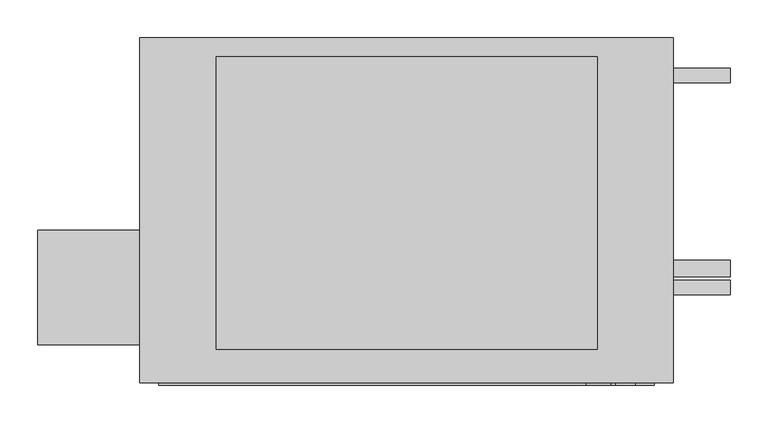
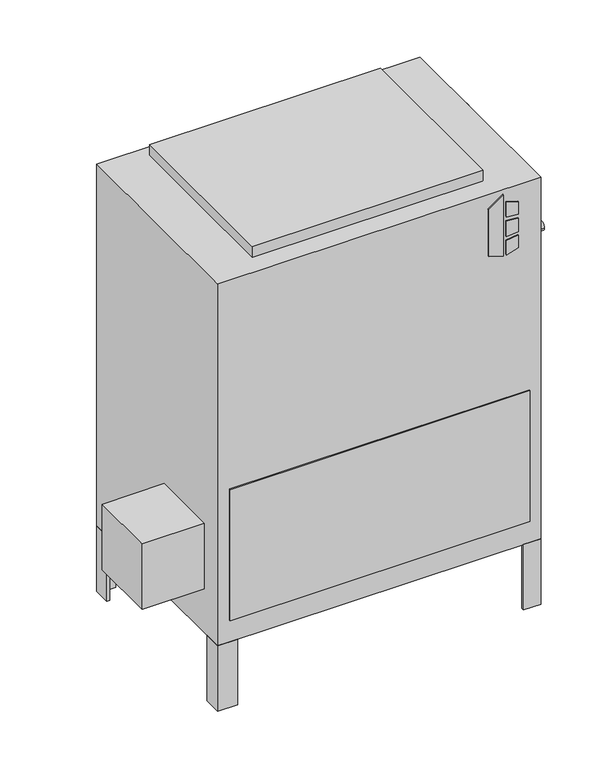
"""IFC4 building model written with IfcOpenShell, lengths in millimetres: proxy geometry, Concealed_High_Capacity_Vertical_Fan_Coil_Unit_-_VEY_-_IEC_-_2-Pipe_Cool-EHeat_RH_2022 : Size 08 - 277v/60Hz/1Ph - 6 Row 6.0kW."""

from ifc_helpers import new_model, si_unit, point, frame, frame_2d, origin, origin_with_axes, place, context, project, spatial, polyline, circle_curve, trimmed, segment, composite_curve, outline, extrude, source, transform, mapped, element, save


def mechanical_equipment_c1bae313(model_context):
    return source(origin(), model_context, "Body", "SweptSolid", [
        extrude(outline(polyline([(698.9230703, 392.1868862), (688.975, 424.3602728), (831.1459244, 424.3602728), (808.1239183, 392.1868862), (698.9230703, 392.1868862)])), frame((0.0, -471.4875, 0.0), z_axis=(0.0, 1.0, 0.0), x_axis=(0.0, 0.0, 1.0)), (0.0, 0.0, 1.0), 3.175),
        extrude(outline(polyline([(777.9223557, 431.1186058), (774.7199632, 457.2), (803.9488042, 457.2), (812.0132193, 431.1186058), (777.9223557, 431.1186058)])), frame((0.0, -471.4875, 0.0), z_axis=(0.0, 1.0, 0.0), x_axis=(0.0, 0.0, 1.0)), (0.0, 0.0, 1.0), 3.175),
        extrude(outline(polyline([(726.0588288, 457.2), (722.3933279, 431.1186058), (688.975, 431.1186058), (697.6092372, 457.2), (726.0588288, 457.2)])), frame((0.0, -471.4875, 0.0), z_axis=(0.0, 1.0, 0.0), x_axis=(0.0, 0.0, 1.0)), (0.0, 0.0, 1.0), 3.175),
        extrude(outline(polyline([(765.3739903, 457.2), (767.6558166, 431.1186058), (731.7182681, 431.1186058), (734.4595331, 457.2), (765.3739903, 457.2)])), frame((0.0, -471.4875, 0.0), z_axis=(0.0, 1.0, 0.0), x_axis=(0.0, 0.0, 1.0)), (0.0, 0.0, 1.0), 3.175),
        extrude(outline(polyline([(-339.725, -417.5125), (-339.725, -265.1125), (-203.2, -265.1125), (-203.2, -417.5125), (-339.725, -417.5125)])), frame((0.0, 0.0, 101.6), z_axis=(0.0, 0.0, 1.0), x_axis=(1.0, 0.0, 0.0)), (0.0, 0.0, 1.0), 152.4),
        extrude(outline(polyline([(508.0, -46.0375), (501.65, -46.0375), (501.65, -14.2875), (469.9, -14.2875), (469.9, -7.9375), (508.0, -7.9375), (508.0, -46.0375)])), frame((0.0, 0.0, -152.4), z_axis=(0.0, 0.0, 1.0), x_axis=(1.0, 0.0, 0.0)), (0.0, 0.0, 1.0), 152.4),
        extrude(outline(polyline([(-165.1, -7.9375), (-165.1, -14.2875), (-196.85, -14.2875), (-196.85, -46.0375), (-203.2, -46.0375), (-203.2, -7.9375), (-165.1, -7.9375)])), frame((0.0, 0.0, -152.4), z_axis=(0.0, 0.0, 1.0), x_axis=(1.0, 0.0, 0.0)), (0.0, 0.0, 1.0), 152.4),
        extrude(outline(polyline([(469.9, -468.3125), (469.9, -461.9625), (501.65, -461.9625), (501.65, -430.2125), (508.0, -430.2125), (508.0, -468.3125), (469.9, -468.3125)])), frame((0.0, 0.0, -152.4), z_axis=(0.0, 0.0, 1.0), x_axis=(1.0, 0.0, 0.0)), (0.0, 0.0, 1.0), 152.4),
        extrude(outline(polyline([(-203.2, -428.1199163), (-196.85, -428.1199163), (-196.85, -461.9625), (-159.7318533, -461.9625), (-159.7318533, -468.3125), (-203.2, -468.3125), (-203.2, -428.1199163)])), frame((0.0, 0.0, -152.4), z_axis=(0.0, 0.0, 1.0), x_axis=(1.0, 0.0, 0.0)), (0.0, 0.0, 1.0), 152.4),
        extrude(outline(polyline([(406.4, -33.3375), (406.4, -423.8625), (-101.6, -423.8625), (-101.6, -33.3375), (406.4, -33.3375)])), frame((0.0, 0.0, 841.375), z_axis=(0.0, 0.0, 1.0), x_axis=(1.0, 0.0, 0.0)), (0.0, 0.0, 1.0), 25.4),
        extrude(outline(polyline([(482.6, -471.4875), (-177.8, -471.4875), (-177.8, -468.3125), (482.6, -468.3125), (482.6, -471.4875)])), frame((0.0, 0.0, 50.8), z_axis=(0.0, 0.0, 1.0), x_axis=(1.0, 0.0, 0.0)), (0.0, 0.0, 1.0), 304.8),
        extrude(outline(composite_curve([segment(trimmed(circle_curve(frame_2d((-58.7375, 727.075)), 9.525), [point((-49.2125, 727.075))], [point((-68.2625, 727.075))], False, "CARTESIAN"), True, "CONTINUOUS"), segment(trimmed(circle_curve(frame_2d((-58.7375, 727.075)), 9.525), [point((-68.2625, 727.075))], [point((-49.2125, 727.075))], False, "CARTESIAN"), True, "CONTINUOUS")], self_intersect=False)), frame((508.0, 0.0, 0.0), z_axis=(1.0, 0.0, 0.0), x_axis=(0.0, 1.0, 0.0)), (0.0, 0.0, 1.0), 76.2),
        extrude(outline(composite_curve([segment(trimmed(circle_curve(frame_2d((-341.3125, 625.475)), 9.525), [point((-331.7875, 625.475))], [point((-350.8375, 625.475))], False, "CARTESIAN"), True, "CONTINUOUS"), segment(trimmed(circle_curve(frame_2d((-341.3125, 625.475)), 9.525), [point((-350.8375, 625.475))], [point((-331.7875, 625.475))], False, "CARTESIAN"), True, "CONTINUOUS")], self_intersect=False)), frame((508.0, 0.0, 0.0), z_axis=(1.0, 0.0, 0.0), x_axis=(0.0, 1.0, 0.0)), (0.0, 0.0, 1.0), 76.2),
        extrude(outline(composite_curve([segment(trimmed(circle_curve(frame_2d((-315.9125, 536.575)), 11.1125), [point((-304.8, 536.575))], [point((-327.025, 536.575))], False, "CARTESIAN"), True, "CONTINUOUS"), segment(trimmed(circle_curve(frame_2d((-315.9125, 536.575)), 11.1125), [point((-327.025, 536.575))], [point((-304.8, 536.575))], False, "CARTESIAN"), True, "CONTINUOUS")], self_intersect=False)), frame((508.0, 0.0, 0.0), z_axis=(1.0, 0.0, 0.0), x_axis=(0.0, 1.0, 0.0)), (0.0, 0.0, 1.0), 76.2),
        extrude(outline(polyline([(508.0, -7.9375), (508.0, -468.3125), (-203.2, -468.3125), (-203.2, -7.9375), (508.0, -7.9375)])), origin_with_axes(), (0.0, 0.0, 1.0), 841.375),
    ])


if __name__ == "__main__":
    model = new_model("IFC4")
    model_context = context("Model", 3, world=origin())
    ifc_project = project(units=[si_unit("LENGTHUNIT", "METRE", prefix="MILLI")], contexts=[model_context])
    site = spatial("IfcSite", under=ifc_project)
    building = spatial("IfcBuilding", under=site)
    placement = place(None, origin())
    mechanical_equipment_shape = mechanical_equipment_c1bae313(model_context)
    element("IfcBuildingElementProxy", 1, Name="Concealed_High_Capacity_Vertical_Fan_Coil_Unit_-_VEY_-_IEC_-_2-Pipe_Cool-EHeat_RH_2022 : Size 08 - 277v/60Hz/1Ph - 6 Row 6.0kW", ObjectType="Concealed_High_Capacity_Vertical_Fan_Coil_Unit_-_VEY_-_IEC_-_2-Pipe_Cool-EHeat_RH_2022 : Size 08 - 277v/60Hz/1Ph - 6 Row 6.0kW", at=placement, inside=building, context=model_context, shape_type="MappedRepresentation", body=[
        mapped(mechanical_equipment_shape, transform((0.0, 0.0, 0.0), x_axis=(1.0, 0.0, 0.0), y_axis=(0.0, 1.0, 0.0), z_axis=(0.0, 0.0, 1.0))),
    ])
    save(model, "model.ifc")
